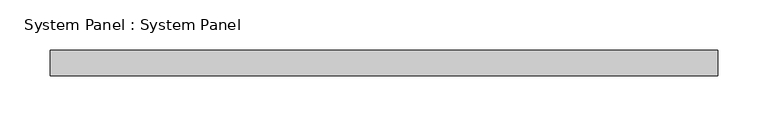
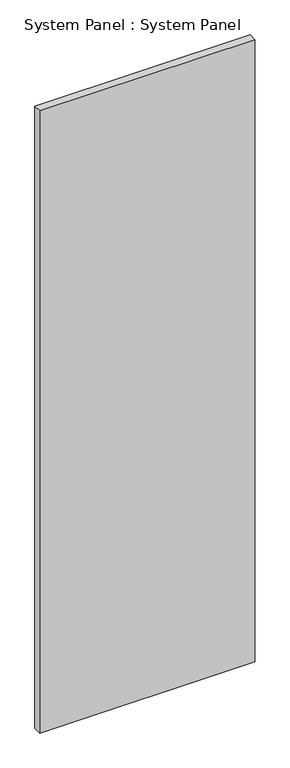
"""IFC4 building model written with IfcOpenShell, lengths in millimetres: plate geometry, System Panel : System Panel."""

from ifc_helpers import new_model, si_unit, origin, origin_with_axes, place, context, project, spatial, polyline, outline, extrude, source, transform, mapped, element, save


def system_panel_system_panel_82d31de2(model_context):
    return source(origin(), model_context, "Body", "SweptSolid", [
        extrude(outline(polyline([(333.375, 19.05), (-333.375, 19.05), (-333.375, 44.45), (333.375, 44.45), (333.375, 19.05)])), origin_with_axes(), (0.0, 0.0, 1.0), 2038.35),
    ])


if __name__ == "__main__":
    model = new_model("IFC4")
    model_context = context("Model", 3, world=origin())
    ifc_project = project(units=[si_unit("LENGTHUNIT", "METRE", prefix="MILLI")], contexts=[model_context])
    site = spatial("IfcSite", under=ifc_project)
    building = spatial("IfcBuilding", under=site)
    placement = place(None, origin())
    system_panel_system_panel_shape = system_panel_system_panel_82d31de2(model_context)
    element("IfcPlate", 1, ObjectType="System Panel : System Panel", at=placement, inside=building, context=model_context, shape_type="MappedRepresentation", body=[
        mapped(system_panel_system_panel_shape, transform((0.0, 0.0, 0.0), x_axis=(1.0, 0.0, 0.0), y_axis=(0.0, 1.0, 0.0), z_axis=(0.0, 0.0, 1.0))),
    ])
    save(model, "model.ifc")
